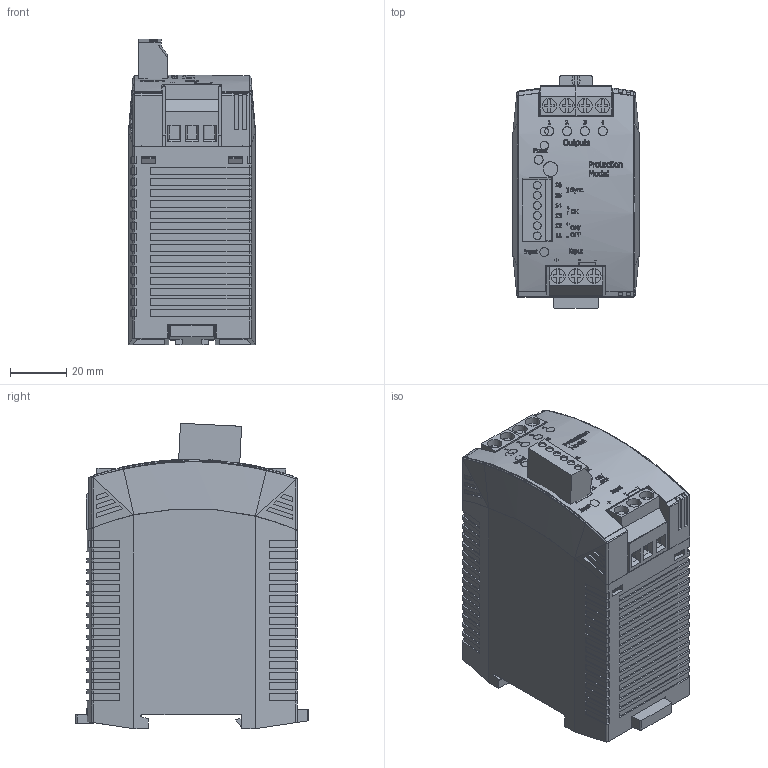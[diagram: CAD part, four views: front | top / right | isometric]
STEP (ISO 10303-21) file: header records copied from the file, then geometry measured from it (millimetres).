
FILE_DESCRIPTION((''),'2;1');
FILE_NAME('C:\Dokumente und Einstellungen\oezdemh\Eigene Dateien\md3_pisa.stp','2011-03-14T14:39:07',('oezdemh'),(''),'Autodesk Inventor 2009','Autodesk Inventor 2009','');
FILE_SCHEMA(('AUTOMOTIVE_DESIGN { 1 0 10303 214 1 1 1 1 }'));
Length unit declared in the file: millimetre
Products named in the file (8): 379; HOUSING BODY 322; HOUSING COVER 322; SLIDER 322; TERMINAL 2P R6,35 T; TERMINAL 3P R6,35 T; TERMINAL PLUGABLE 6P ; FRONTFOIL 379
Assembly tree (8 placements, depth 2):
  379
    HOUSING BODY 322
    HOUSING COVER 322
    SLIDER 322
    TERMINAL 2P R6,35 T  x2
    TERMINAL 3P R6,35 T
    TERMINAL PLUGABLE 6P 
    FRONTFOIL 379
Bounding box: 45 x 83 x 108.83 mm (x, y, z)
Volume: 296681.8 mm3; surface area: 53374.5 mm2
Topology: 13 solids, 13 shells, 2284 faces, 6233 edges, 4136 vertices
Faces by surface type: plane 1496, bspline 498, cylinder 283, cone 7
Full cylindrical faces by diameter (mm): 0.05 x4, 2.7 x6, 3 x2, 5.15 x7, 5.2 x1
Entity records: 249043 total; most frequent: CARTESIAN_POINT 196420, ORIENTED_EDGE 12048, DIRECTION 8676, EDGE_CURVE 6024, VERTEX_POINT 4010, VECTOR 3672, LINE 3672, AXIS2_PLACEMENT_3D 2502
